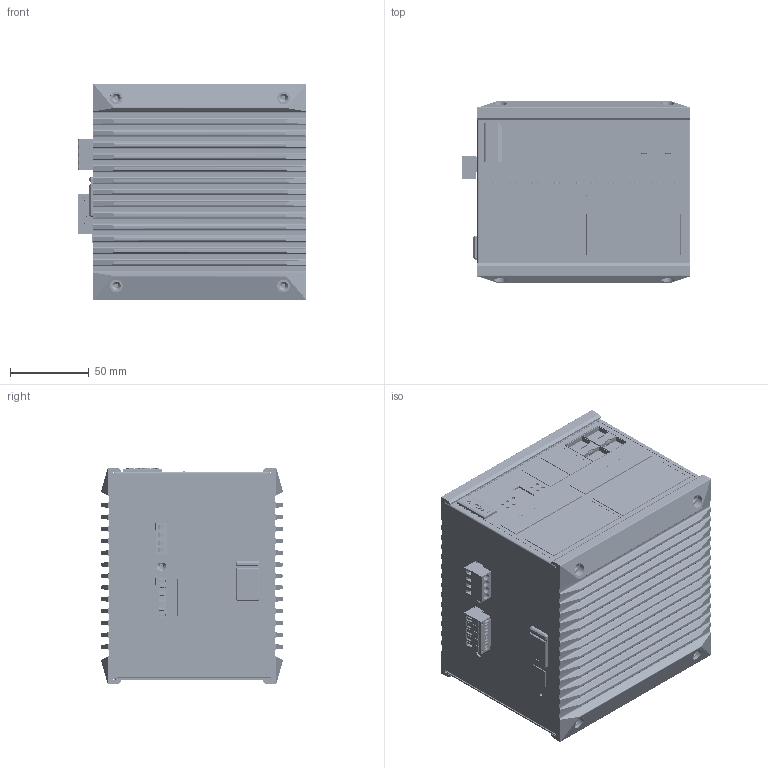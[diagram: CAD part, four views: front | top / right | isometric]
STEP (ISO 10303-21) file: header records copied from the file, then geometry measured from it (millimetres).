
FILE_DESCRIPTION((''),'2;1');
FILE_NAME('EDS_528E_ASM','2016-11-08T',('YoungMH_Yang'),('PTC'),'PRO/ENGINEER BY PARAMETRIC TECHNOLOGY CORPORATION, 2013320','PRO/ENGINEER BY PARAMETRIC TECHNOLOGY CORPORATION, 2013320','');
FILE_SCHEMA(('AUTOMOTIVE_DESIGN { 1 0 10303 214 1 1 1 1 }'));
Products named in the file (195): EDS_528E_MIAN_PCB; DIP_SEITCH_8PIN_; 1126010000000_USB_B-TYPE_90DIP_; TACKSW_DTSA644N_; RJ45-2X4-E5908-57C122-L_; PIN_HEADER2X25_; EDS-528E-4GTXSFP-WV_MAIN_V09_08; EC-10_5X5_5-5MM-H11_5; SMD10-3_2X2_5-H1; D-SOD-123-1; D-SOD-323-BI-AC; D-SOD80C-H1_6; HE50X50_2X25F_SMD-2NP-H4_3; LLP8-2_6X3-EPAD-H1_5; TSOPII54-22X10-H1_2; HE50X50-2X20M-ZP91_HO-H31_5; HE100_2X2M_D40-H8_54; L1608-H1; D-SOD-523; RJ45-2X4-RMW-1C1ADV3T-H28; TSOP-56; RN8P4R_0402; TP-SMD; SC70-5P; QFP32; SMD4P; SOT23-BCE; SO8P; C1206; SOT23-5; SC70-5; OSC-SMD-3_2X2_5-H1_1; TSSOP14P; B0805; RN8P4R; FUSE-1210-1; C0603; C1808; C0805; B0603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
Assembly tree (2011 placements, depth 7):
  EDS_528E_ASM
    EDS_528E_MIAN_BOARD_ASM
      EDS_528E_MIAN_PCB
      DIP_SEITCH_8PIN_
      1126010000000_USB_B-TYPE_90DIP_
      TACKSW_DTSA644N_
      RJ45-2X4-E5908-57C122-L_  x2
      PIN_HEADER2X25_  x2
      EDS-528E-4GTXSFP-WV_MAIN_V09_08_ASM
        EDS-528E-4GTXSFP-WV_MAIN_V09_08
        EC-10_5X5_5-5MM-H11_5
        SMD10-3_2X2_5-H1
        D-SOD-123-1
        D-SOD-323-BI-AC
        D-SOD80C-H1_6
        HE50X50_2X25F_SMD-2NP-H4_3  x2
        LLP8-2_6X3-EPAD-H1_5  x3
        TSOPII54-22X10-H1_2  x2
        HE50X50-2X20M-ZP91_HO-H31_5  x2
        HE100_2X2M_D40-H8_54
        L1608-H1  x19
        D-SOD-523  x8
        RJ45-2X4-RMW-1C1ADV3T-H28  x2
        TSOP-56
        RN8P4R_0402  x2
        TP-SMD  x7
        SC70-5P
        QFP32
        SMD4P
        SOT23-BCE
        SO8P  x3
        C1206  x3
        SOT23-5  x6
        SC70-5  x2
        OSC-SMD-3_2X2_5-H1_1  x3
        TSSOP14P  x6
        B0805
        RN8P4R  x12
        FUSE-1210-1
        C0603  x62
        C1808  x5
        C0805  x6
        B0603  x17
        TSSOP20P  x2
        R0402  x136
        C0402  x352
        R0603  x55
        SW-TACT-90
        USB_BTYPE-4P
        HOLEC236D126-6V  x4
        DASW-4P
        BGA596-35X35-1_27MM-H2_33
        PBGA676-35X35-1_27MM-H2_52
    EDS_528E_IO_BOARD_ASM
      EDS_528E_IO_PCB
      9742-882X-413D-L3-A-B-LFG_ASM_ASM  x2
        MSBR-18
        MSBR-17
        MSBR-16
        MSBR-15
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Bounding box: 145 x 115.4 x 137 mm (x, y, z)
Volume: 965473.5 mm3; surface area: 841403.3 mm2
Topology: 2423 solids, 2463 shells, 52448 faces, 145318 edges, 101432 vertices
Faces by surface type: plane 42833, cylinder 8227, cone 777, bspline 248, torus 214, revolution 64, extrusion 60, sphere 25
Entity records: 664927 total; most frequent: CARTESIAN_POINT 98799, DIRECTION 92309, ORIENTED_EDGE 71040, VECTOR 38773, LINE 38759, EDGE_CURVE 35565, AXIS2_PLACEMENT_3D 26764, VERTEX_POINT 22933
